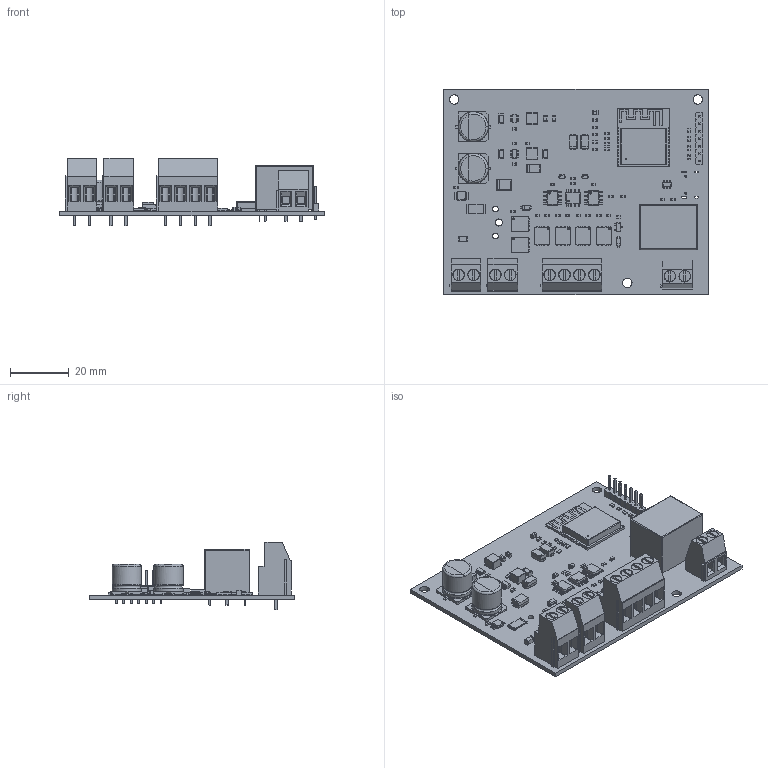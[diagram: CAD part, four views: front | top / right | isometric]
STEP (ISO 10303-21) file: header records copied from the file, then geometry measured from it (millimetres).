
FILE_DESCRIPTION(('KiCad electronic assembly'),'2;1');
FILE_NAME('AP02.step','2026-10-02T07:01:48',('Pcbnew'),('Kicad'), 'Open CASCADE STEP processor 7.6','KiCad to STEP converter','Unknown' );
FILE_SCHEMA(('AUTOMOTIVE_DESIGN { 1 0 10303 214 1 1 1 1 }'));
Length unit declared in the file: millimetre
Products named in the file (26): AP02 1; R_0603_1608Metric; D_SMA; SOT-23-6; C_1206_3216Metric; TDSON-8-1; SOIC-8_3.9x4.9mm_P1.27mm; C_0603_1608Metric; D_SMB; CP_Elec_10x10.5; D_SOD-123; TSOT-23-6; TerminalBlock_Phoenix_MKDS-3-4-5.08_1x04_P5.08mm_Horizontal; VSSOP-10_3x3mm_P0.5mm; C_0805_2012Metric; D_SOD-323; ESP32-C3-WROOM-02; TerminalBlock_Phoenix_MKDS-3-2-5.08_1x02_P5.08mm_Horizontal; R_2512_6332Metric; SOT-23; L_Changjiang_FNR4030S; Relay_SPDT_SANYOU_SRD_Series_Form_C; LED_0603_1608Metric; TerminalBlock_Phoenix_MKDS-1,5-2-5.08_1x02_P5.08mm_Horizontal; PinHeader_1x07_P2.54mm_Vertical; AP02_PCB
Assembly tree (78 placements, depth 2):
  AP02 1
    R_0603_1608Metric  x26
    D_SMA  x3
    SOT-23-6  x2
    C_1206_3216Metric  x4
    TDSON-8-1  x6
    SOIC-8_3.9x4.9mm_P1.27mm  x3
    C_0603_1608Metric  x9
    D_SMB
    CP_Elec_10x10.5  x2
    D_SOD-123  x2
    TSOT-23-6
    TerminalBlock_Phoenix_MKDS-3-4-5.08_1x04_P5.08mm_Horizontal
    VSSOP-10_3x3mm_P0.5mm
    C_0805_2012Metric  x3
    D_SOD-323  x2
    ESP32-C3-WROOM-02
    TerminalBlock_Phoenix_MKDS-3-2-5.08_1x02_P5.08mm_Horizontal  x2
    R_2512_6332Metric
    SOT-23
    L_Changjiang_FNR4030S  x2
    Relay_SPDT_SANYOU_SRD_Series_Form_C
    LED_0603_1608Metric
    TerminalBlock_Phoenix_MKDS-1,5-2-5.08_1x02_P5.08mm_Horizontal
    PinHeader_1x07_P2.54mm_Vertical
    AP02_PCB
Bounding box: 90 x 70 x 23 mm (x, y, z)
Volume: 24222 mm3; surface area: 27825.8 mm2
Topology: 107 solids, 107 shells, 4404 faces, 11195 edges, 7082 vertices
Faces by surface type: plane 2992, cylinder 847, bspline 539, sphere 16, torus 8, revolution 2
Full cylindrical faces by diameter (mm): 0.25 x1, 0.3 x4, 0.5 x7, 0.6 x3, 0.65 x2, 1 x9, 1.3 x13, 2 x2, 2.4 x1, 3.2 x3, 3.8 x10, 4 x10, 10 x4
Entity records: 65414 total; most frequent: CARTESIAN_POINT 12724, ORIENTED_EDGE 11074, DIRECTION 10036, EDGE_CURVE 5537, LINE 4389, VECTOR 4389, VERTEX_POINT 3487, AXIS2_PLACEMENT_3D 2823
